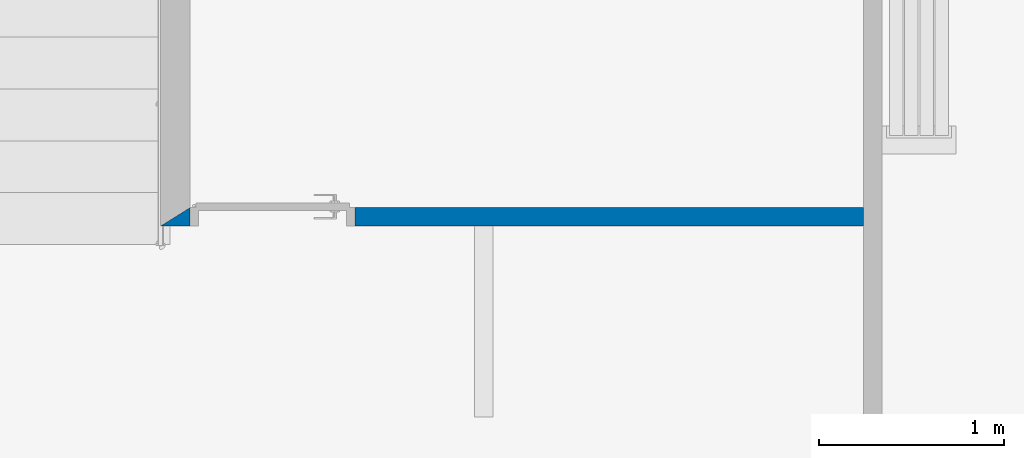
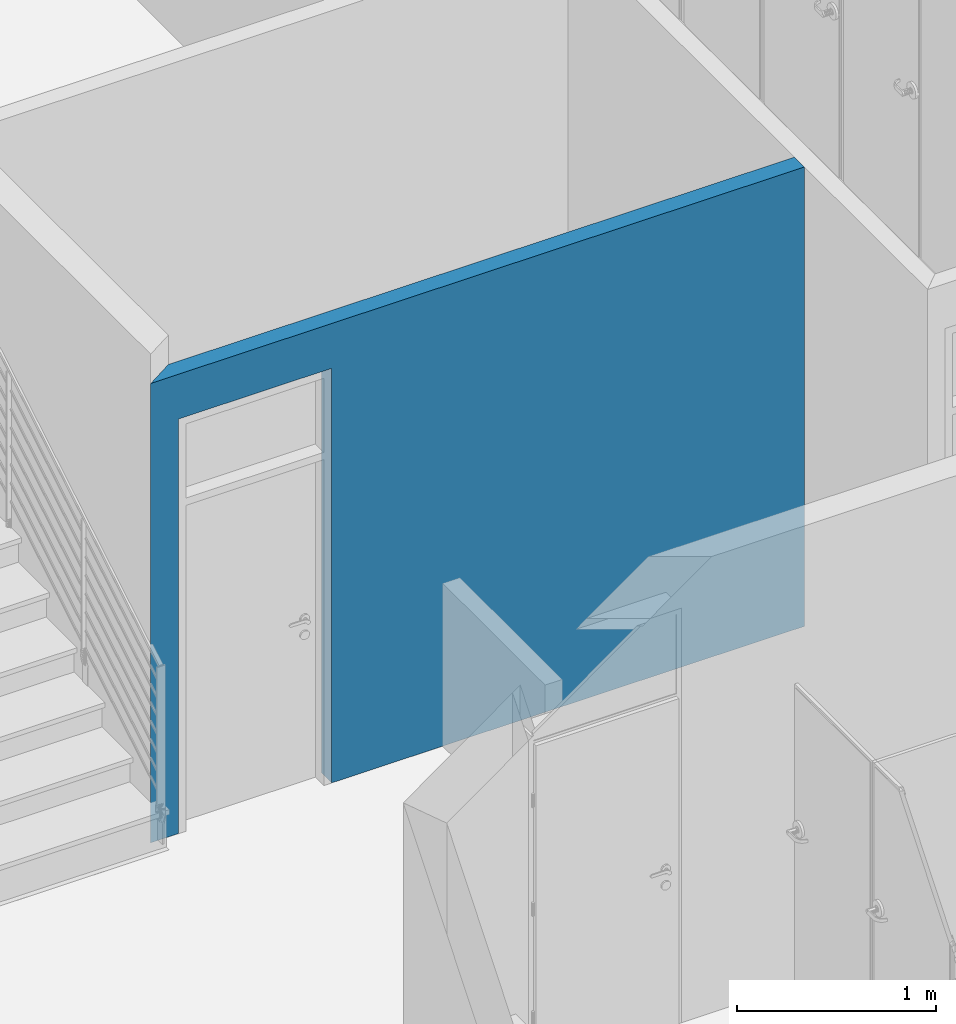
# One storey, part 17 of 45: 1 wall, 1 opening.
"""IFC2X3 building model written with IfcOpenShell, lengths in metres."""

from ifc_helpers import new_model, entity, si_unit, converted_unit, money_unit, direction, frame, origin_with_axes, place, context, subcontext, project, spatial, polyline, outline, extrude, material, layer, layer_set, layer_usage, type_object, element, save


model = new_model("IFC2X3")

# Units and contexts
model_context = context("Model", 3, precision=1e-05, world=origin_with_axes(), true_north=direction((0.0, 1.0)))
body_context = subcontext(model_context, "Body", "Model", "MODEL_VIEW")
ifc_project = project(units=[si_unit("LENGTHUNIT", "METRE"), si_unit("AREAUNIT", "SQUARE_METRE"), si_unit("VOLUMEUNIT", "CUBIC_METRE"), converted_unit("PLANEANGLEUNIT", "DEGREE", entity("IfcPlaneAngleMeasure", 0.0174532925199), si_unit("PLANEANGLEUNIT", "RADIAN"), dimensions=[0, 0, 0, 0, 0, 0, 0]), si_unit("SOLIDANGLEUNIT", "STERADIAN"), money_unit("EUR"), converted_unit("TIMEUNIT", "Year", entity("IfcTimeMeasure", 31556926.0), si_unit("TIMEUNIT", "SECOND"), dimensions=[0, 0, 0, 0, 0, 0, 0]), si_unit("MASSUNIT", "GRAM"), si_unit("THERMODYNAMICTEMPERATUREUNIT", "DEGREE_CELSIUS"), si_unit("LUMINOUSINTENSITYUNIT", "LUMEN")], contexts=[model_context])

# Site, building, storey
site_placement = place(None, origin_with_axes())
site = spatial("IfcSite", under=ifc_project, at=site_placement, Name="Site", CompositionType="ELEMENT")
building_placement = place(site_placement, origin_with_axes())
building = spatial("IfcBuilding", under=site, at=building_placement, Name="Bâtiment", CompositionType="ELEMENT")
storey_placement = place(building_placement, origin_with_axes())
storey = spatial("IfcBuildingStorey", under=building, at=storey_placement, Name="NIVEAU BAS GYMNASE", CompositionType="ELEMENT", Elevation=0.0)

# Wall, opening
ifc_material = material(Name="Hachure solide* 3962059836")
ifc_layer = layer(ifc_material, 0.1, ventilated="UNKNOWN")
ifc_layer_set = layer_set([ifc_layer], Name="Hachure solide* 3962059836 0.1")
ifc_layer_usage = layer_usage(ifc_layer_set, "AXIS2", "POSITIVE", -0.1)
wall_type = type_object("IfcWallType", Name="Hachure solide* 3962059836 100", PredefinedType="NOTDEFINED")
wall_placement = place(storey_placement, frame((51.838457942, 15.908815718, 0.0), z_axis=(0.0, 0.0, 1.0), x_axis=(1.0, 0.0, 0.0)))
wall = element("IfcWallStandardCase", 1, at=wall_placement, inside=storey, type_object=wall_type, material=ifc_layer_usage, Name="Mur-004", context=body_context, shape_type="SweptSolid", body=[
    extrude(outline(polyline([(0.0, -0.1), (3.795, -0.1), (3.795, 0.0), (0.16, 0.0), (0.0, -0.1)])), origin_with_axes(), (0.0, 0.0, 1.0), 2.82),
])
opening_placement = place(wall_placement, frame((0.604999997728, 0.0, -0.01), z_axis=(0.0, 0.0, 1.0), x_axis=(1.0, 0.0, 0.0)))
element("IfcOpeningElement", 2, at=opening_placement, cuts=wall, Name="Por-017", context=body_context, shape_type="SweptSolid", body=[
    extrude(outline(polyline([(0.445, 0.0), (-0.445, 0.0), (-0.445, -2.555), (0.445, -2.555), (0.445, 0.0)])), frame((0.0, -0.2, 0.0), z_axis=(0.0, 1.0, 0.0), x_axis=(1.0, 0.0, 0.0)), (0.0, 0.0, 1.0), 0.2),
])

save(model, "model.ifc")
